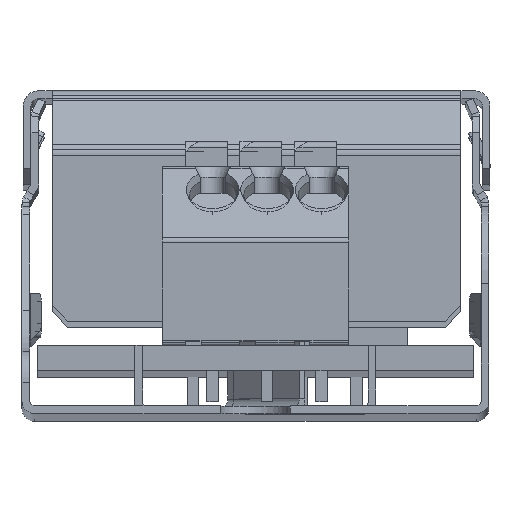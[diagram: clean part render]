
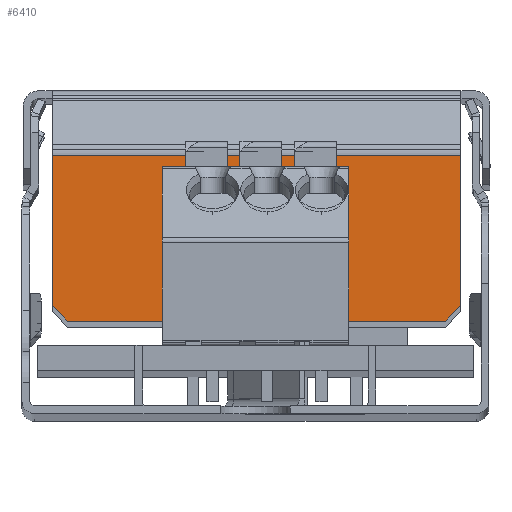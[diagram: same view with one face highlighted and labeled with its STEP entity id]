
A CAD part, top view. The second image highlights one B-rep face of the part: STEP entity #6410.
In plain terms, the highlighted planar face has unit normal (0, 0, 1).
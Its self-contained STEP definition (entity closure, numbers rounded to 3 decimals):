
#37 = DIRECTION ( 'NONE',  ( 0., 0., 1. ) ) ;
#1564 = CARTESIAN_POINT ( 'NONE',  ( 115.622, 148.242, 324.258 ) ) ;
#1878 = LINE ( 'NONE', #9132, #11782 ) ;
#1990 = CARTESIAN_POINT ( 'NONE',  ( 90.352, 158.892, 324.258 ) ) ;
#3438 = ORIENTED_EDGE ( 'NONE', *, *, #17211, .T. ) ;
#3755 = LINE ( 'NONE', #8887, #18903 ) ;
#3862 = CARTESIAN_POINT ( 'NONE',  ( 116.622, 148.242, 324.258 ) ) ;
#4305 = CARTESIAN_POINT ( 'NONE',  ( 116.622, 158.892, 324.258 ) ) ;
#4343 = CARTESIAN_POINT ( 'NONE',  ( 90.352, 149.242, 324.258 ) ) ;
#4426 = DIRECTION ( 'NONE',  ( 0., -1., 0. ) ) ;
#4705 = ORIENTED_EDGE ( 'NONE', *, *, #22435, .F. ) ;
#5740 = LINE ( 'NONE', #18330, #16830 ) ;
#5795 = EDGE_CURVE ( 'NONE', #22933, #13475, #14563, .T. ) ;
#6410 = ADVANCED_FACE ( 'NONE', ( #10183 ), #11877, .T. ) ;
#7153 = DIRECTION ( 'NONE',  ( 0., -1., 0. ) ) ;
#8236 = EDGE_LOOP ( 'NONE', ( #12302, #4705, #19799, #25484, #3438, #15381 ) ) ;
#8712 = EDGE_CURVE ( 'NONE', #18471, #25233, #11641, .T. ) ;
#8837 = AXIS2_PLACEMENT_3D ( 'NONE', #3862, #37, #13864 ) ;
#8887 = CARTESIAN_POINT ( 'NONE',  ( 90.352, 149.242, 324.258 ) ) ;
#9132 = CARTESIAN_POINT ( 'NONE',  ( 90.352, 156.146, 324.258 ) ) ;
#10183 = FACE_OUTER_BOUND ( 'NONE', #8236, .T. ) ;
#11611 = CARTESIAN_POINT ( 'NONE',  ( 115.622, 148.242, 324.258 ) ) ;
#11641 = LINE ( 'NONE', #11611, #21519 ) ;
#11782 = VECTOR ( 'NONE', #7153, 1000. ) ;
#11877 = PLANE ( 'NONE',  #8837 ) ;
#12302 = ORIENTED_EDGE ( 'NONE', *, *, #8712, .T. ) ;
#12608 = CARTESIAN_POINT ( 'NONE',  ( 103.487, 148.242, 324.258 ) ) ;
#13475 = VERTEX_POINT ( 'NONE', #1990 ) ;
#13609 = DIRECTION ( 'NONE',  ( 0.707, 0.707, 0. ) ) ;
#13864 = DIRECTION ( 'NONE',  ( 0., 1., 0. ) ) ;
#14563 = LINE ( 'NONE', #23297, #24388 ) ;
#14601 = VECTOR ( 'NONE', #14620, 1000. ) ;
#14620 = DIRECTION ( 'NONE',  ( 1., 0., 0. ) ) ;
#15381 = ORIENTED_EDGE ( 'NONE', *, *, #15440, .T. ) ;
#15440 = EDGE_CURVE ( 'NONE', #16695, #18471, #24424, .T. ) ;
#16695 = VERTEX_POINT ( 'NONE', #22624 ) ;
#16750 = DIRECTION ( 'NONE',  ( 0.707, -0.707, 0. ) ) ;
#16830 = VECTOR ( 'NONE', #4426, 1000. ) ;
#17211 = EDGE_CURVE ( 'NONE', #18748, #16695, #3755, .T. ) ;
#18330 = CARTESIAN_POINT ( 'NONE',  ( 116.622, 156.146, 324.258 ) ) ;
#18471 = VERTEX_POINT ( 'NONE', #1564 ) ;
#18748 = VERTEX_POINT ( 'NONE', #4343 ) ;
#18903 = VECTOR ( 'NONE', #16750, 1000. ) ;
#19349 = DIRECTION ( 'NONE',  ( -1., 0., 0. ) ) ;
#19799 = ORIENTED_EDGE ( 'NONE', *, *, #5795, .T. ) ;
#21519 = VECTOR ( 'NONE', #13609, 1000. ) ;
#22435 = EDGE_CURVE ( 'NONE', #22933, #25233, #5740, .T. ) ;
#22624 = CARTESIAN_POINT ( 'NONE',  ( 91.352, 148.242, 324.258 ) ) ;
#22933 = VERTEX_POINT ( 'NONE', #4305 ) ;
#23297 = CARTESIAN_POINT ( 'NONE',  ( 103.487, 158.892, 324.258 ) ) ;
#23497 = CARTESIAN_POINT ( 'NONE',  ( 116.622, 149.242, 324.258 ) ) ;
#24388 = VECTOR ( 'NONE', #19349, 1000. ) ;
#24424 = LINE ( 'NONE', #12608, #14601 ) ;
#24456 = EDGE_CURVE ( 'NONE', #13475, #18748, #1878, .T. ) ;
#25233 = VERTEX_POINT ( 'NONE', #23497 ) ;
#25484 = ORIENTED_EDGE ( 'NONE', *, *, #24456, .T. ) ;
